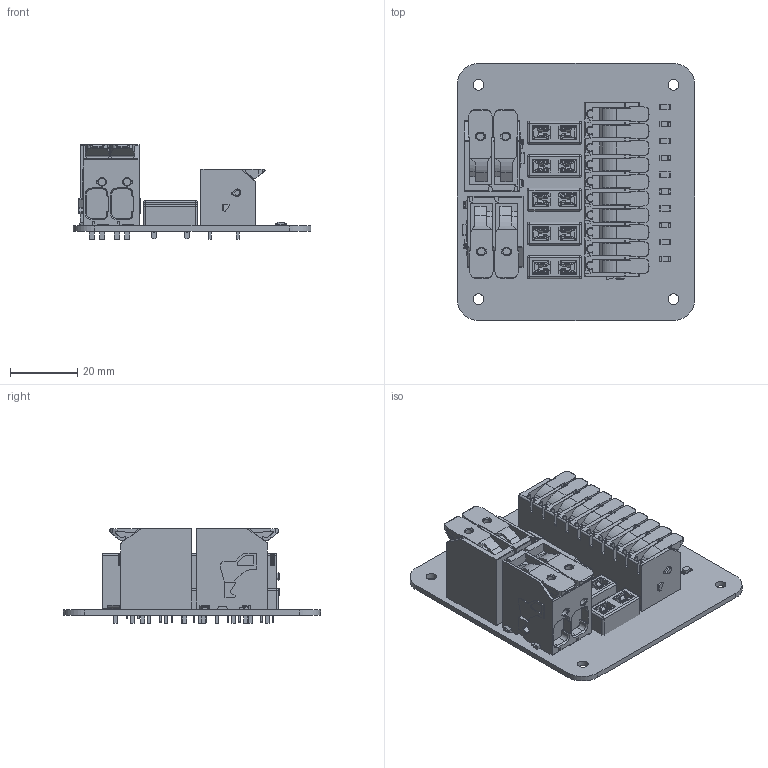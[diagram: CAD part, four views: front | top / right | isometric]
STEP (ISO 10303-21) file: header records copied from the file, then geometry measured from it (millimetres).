
FILE_DESCRIPTION(('KiCad electronic assembly'),'2;1');
FILE_NAME('PowerDistribution.step','2024-10-17T20:44:01',('Pcbnew'),( 'Kicad'),'Open CASCADE STEP processor 7.6','KiCad to STEP converter' ,'Unknown');
FILE_SCHEMA(('AUTOMOTIVE_DESIGN { 1 0 10303 214 1 1 1 1 }'));
Length unit declared in the file: millimetre
Products named in the file (12): PowerDistribution 1; R_1206_3216Metric; LED_1206_3216Metric; 3568--3DModel-STEP-630548; 3568; 2606-1102_000-005; 2606-1102/000-005; 2604-1110; PowerDistribution_PCB
Assembly tree (24 placements, depth 3):
  PowerDistribution 1
    R_1206_3216Metric  x5
      R_1206_3216Metric
    LED_1206_3216Metric  x5
      LED_1206_3216Metric
    3568--3DModel-STEP-630548  x5
      3568
    2606-1102_000-005  x2
      2606-1102/000-005
    2604-1110
      2604-1110
    PowerDistribution_PCB
Bounding box: 70.48 x 76.2 x 28 mm (x, y, z)
Volume: 38586.5 mm3; surface area: 33456.3 mm2
Topology: 29 solids, 29 shells, 3865 faces, 10344 edges, 6610 vertices
Faces by surface type: plane 2503, cylinder 1027, cone 155, sphere 100, torus 40, revolution 40
Full cylindrical faces by diameter (mm): 1.397 x20, 1.8 x20, 2.108 x8, 2.2 x8, 3.175 x4
Entity records: 73435 total; most frequent: CARTESIAN_POINT 11488, ORIENTED_EDGE 10622, DIRECTION 10527, EDGE_CURVE 5311, LINE 3629, VECTOR 3629, AXIS2_PLACEMENT_3D 3445, VERTEX_POINT 3422
